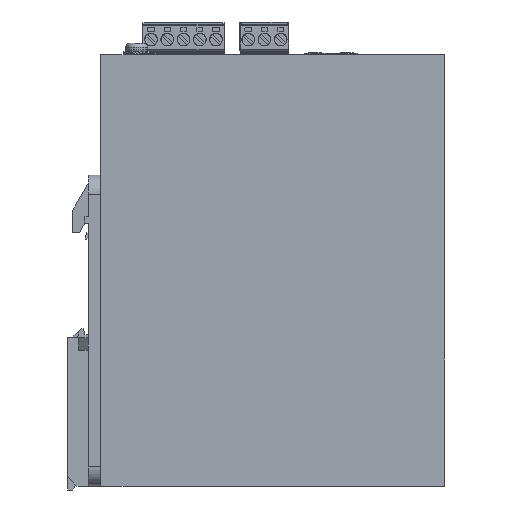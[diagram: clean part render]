
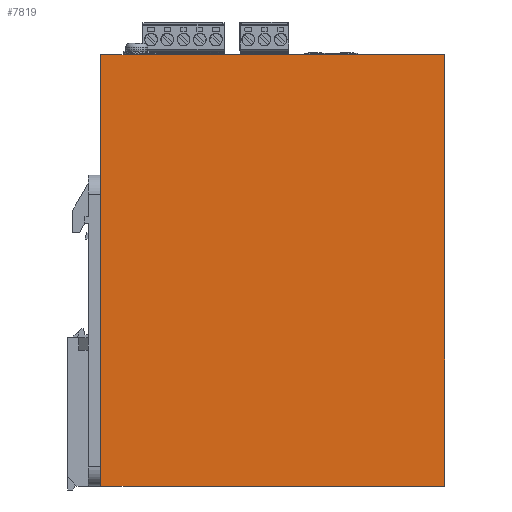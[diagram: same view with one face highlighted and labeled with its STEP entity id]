
A CAD part, left-side view. The second image highlights one B-rep face of the part: STEP entity #7819.
In plain terms, the highlighted planar face has unit normal (-1, 0, 0).
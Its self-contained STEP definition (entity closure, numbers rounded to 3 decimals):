
#6633=CARTESIAN_POINT('',(-0.,107.5,135.));
#6634=VERTEX_POINT('',#6633);
#6641=CARTESIAN_POINT('',(0.,0.,135.));
#6642=VERTEX_POINT('',#6641);
#6643=CARTESIAN_POINT('',(-0.,107.5,135.));
#6644=DIRECTION('',(0.,-1.,0.));
#6645=VECTOR('',#6644,107.5);
#6646=LINE('',#6643,#6645);
#6647=EDGE_CURVE('',#6634,#6642,#6646,.T.);
#7763=CARTESIAN_POINT('',(-0.,107.5,0.));
#7764=VERTEX_POINT('',#7763);
#7771=CARTESIAN_POINT('',(-0.,107.5,135.));
#7772=DIRECTION('',(-0.,-0.,-1.));
#7773=VECTOR('',#7772,135.);
#7774=LINE('',#7771,#7773);
#7775=EDGE_CURVE('',#6634,#7764,#7774,.T.);
#7796=CARTESIAN_POINT('',(-0.,107.502,135.));
#7797=DIRECTION('',(-1.,-0.,0.));
#7798=DIRECTION('',(-0.,1.,-0.));
#7799=AXIS2_PLACEMENT_3D('',#7796,#7797,#7798);
#7800=PLANE('',#7799);
#7801=CARTESIAN_POINT('',(0.,0.,0.));
#7802=VERTEX_POINT('',#7801);
#7803=CARTESIAN_POINT('',(-0.,107.5,0.));
#7804=DIRECTION('',(0.,-1.,0.));
#7805=VECTOR('',#7804,107.5);
#7806=LINE('',#7803,#7805);
#7807=EDGE_CURVE('',#7764,#7802,#7806,.T.);
#7808=ORIENTED_EDGE('',*,*,#7807,.T.);
#7809=CARTESIAN_POINT('',(0.,0.,135.));
#7810=DIRECTION('',(-0.,-0.,-1.));
#7811=VECTOR('',#7810,135.);
#7812=LINE('',#7809,#7811);
#7813=EDGE_CURVE('',#6642,#7802,#7812,.T.);
#7814=ORIENTED_EDGE('',*,*,#7813,.F.);
#7815=ORIENTED_EDGE('',*,*,#6647,.F.);
#7816=ORIENTED_EDGE('',*,*,#7775,.T.);
#7817=EDGE_LOOP('',(#7808,#7814,#7815,#7816));
#7818=FACE_BOUND('',#7817,.T.);
#7819=ADVANCED_FACE('',(#7818),#7800,.T.);
